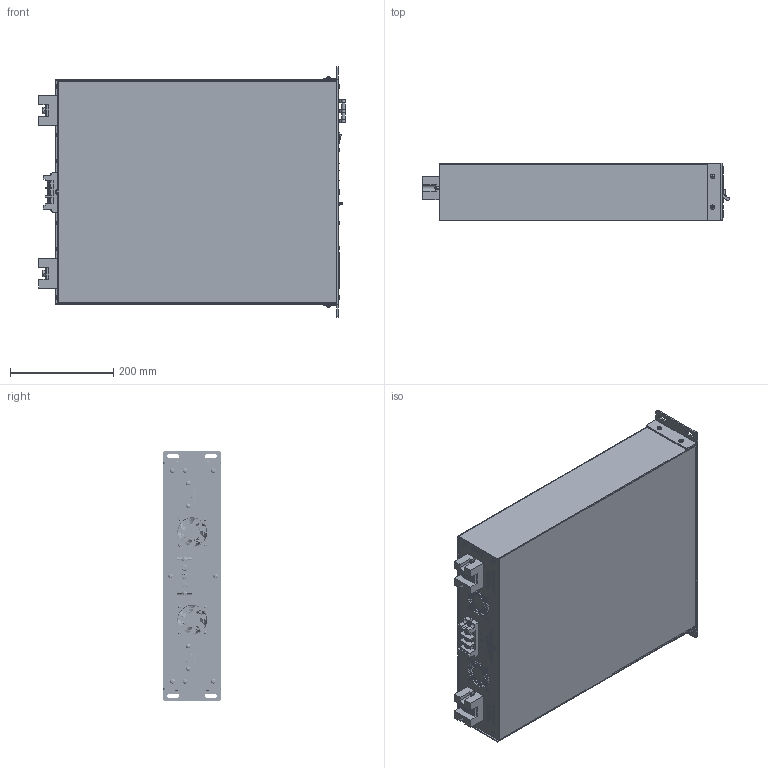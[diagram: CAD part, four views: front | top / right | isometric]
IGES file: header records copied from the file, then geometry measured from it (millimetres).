
Global section: file name: 2021.02.09_3000W 충전기; native system: Autodesk Inventor 2021; preprocessor: unknown; author: eunsol jang; date: 20210209.175820; units: inch
Bounding box: 595.38 x 111 x 487 mm (x, y, z)
Volume: 1881868.1 mm3; surface area: 1608801.2 mm2
Topology: 17 solids, 17 shells, 9906 faces, 26881 edges, 17814 vertices
Faces by surface type: bspline 9906
